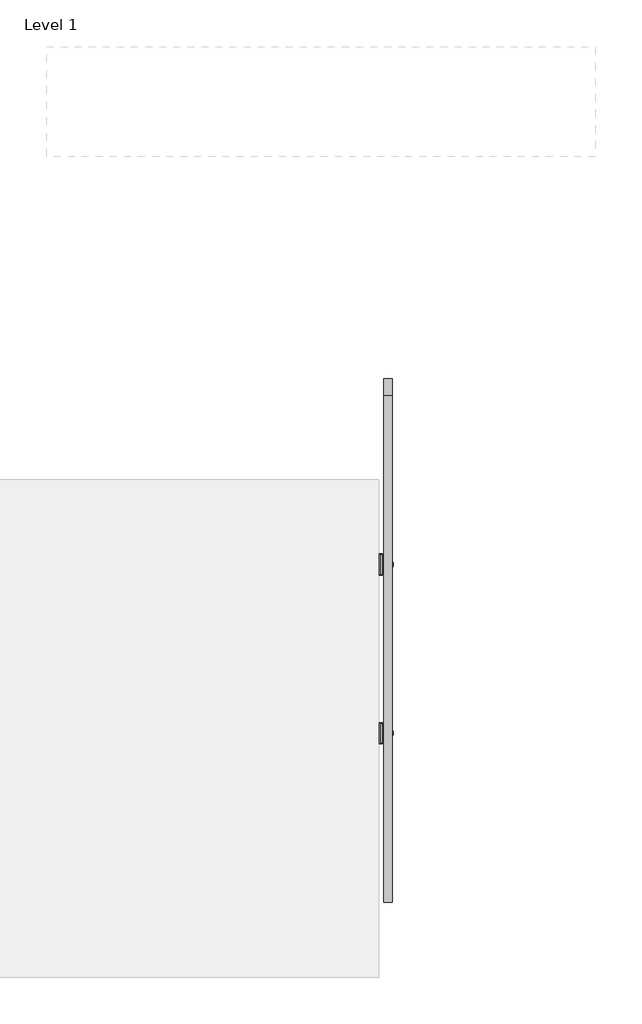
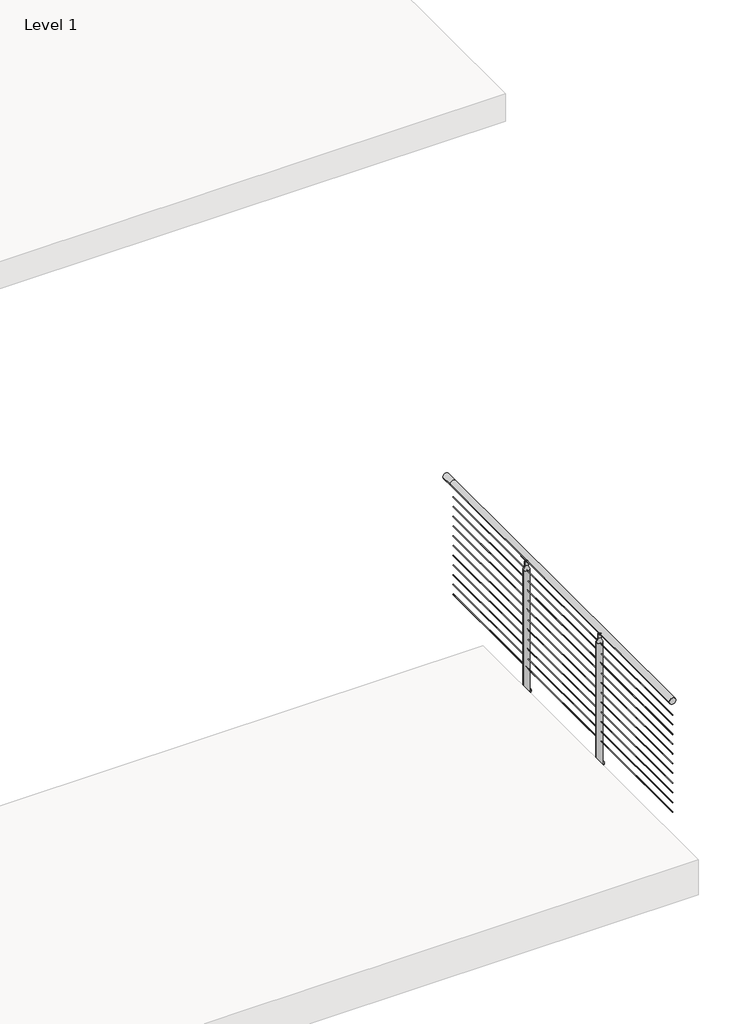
# One storey, part 3 of 21: 1 railing.
"""IFC4 building model written with IfcOpenShell, lengths in millimetres."""

from ifc_helpers import new_model, si_unit, point, frame, frame_2d, origin, place, context, project, spatial, polyline, circle_curve, ellipse_curve, trimmed, segment, composite_curve, outline, extrude, element, save
from ifc_brep_helpers import plane_surface, cylinder_surface, revolved_surface, advanced_brep

model = new_model("IFC4")

# Units and contexts
model_context = context("Model", 3, world=origin())
ifc_project = project(units=[si_unit("LENGTHUNIT", "METRE", prefix="MILLI")], contexts=[model_context])

# Site, building, storey
site = spatial("IfcSite", under=ifc_project)
building = spatial("IfcBuilding", under=site)
storey = spatial("IfcBuildingStorey", under=building, Name="Level 1", Elevation=0.0)

# Railing
placement = place(None, origin())
element("IfcRailing", 1, ObjectType="VIVA-CIRCA-Cable-Fascia Mount-Straight", at=placement, inside=storey, context=model_context, shape_type="SolidModel", body=[
    advanced_brep(
    [(-4853.4752117, -56730.9465075, 1054.1), (-4904.2752117, -56730.9465075, 1054.1), (-4853.4752117, -53682.9465075, 1054.1), (-4904.2752117, -53682.9465075, 1054.1), (-4853.4752117, -53581.3465075, 1054.1), (-4904.2752117, -53581.3465075, 1054.1)],
    [
        (0, 1, circle_curve(frame((-4878.8752117, -56730.9465075, 1054.1), z_axis=(0.0, -1.0, 0.0), x_axis=(-1.0, 0.0, 0.0)), 25.4)),
        (1, 0, circle_curve(frame((-4878.8752117, -56730.9465075, 1054.1), z_axis=(0.0, -1.0, 0.0), x_axis=(-1.0, 0.0, 0.0)), 25.4)),
        (0, 2),
        (2, 3, circle_curve(frame((-4878.8752117, -53682.9465075, 1054.1), z_axis=(0.0, -1.0, 0.0), x_axis=(-1.0, 0.0, 0.0)), 25.4)),
        (3, 1),
        (3, 2, circle_curve(frame((-4878.8752117, -53682.9465075, 1054.1), z_axis=(0.0, -1.0, 0.0), x_axis=(-1.0, 0.0, 0.0)), 25.4)),
        (4, 5, circle_curve(frame((-4878.8752117, -53581.3465075, 1054.1), z_axis=(0.0, 1.0, 0.0), x_axis=(-1.0, 0.0, 0.0)), 25.4)),
        (5, 4, circle_curve(frame((-4878.8752117, -53581.3465075, 1054.1), z_axis=(0.0, 1.0, 0.0), x_axis=(-1.0, 0.0, 0.0)), 25.4)),
        (2, 4),
        (5, 3),
    ],
    [
        plane_surface(frame((-4878.8752117, -56730.9465075, 1079.5), z_axis=(0.0, -1.0, 0.0), x_axis=(0.0, 0.0, 1.0))),
        cylinder_surface(frame((-4878.8752117, -56730.9465075, 1054.1), z_axis=(0.0, -1.0, 0.0), x_axis=(-1.0, 0.0, 0.0)), 25.4),
        plane_surface(frame((-4878.8752117, -53581.3465075, 1079.5), z_axis=(0.0, 1.0, 0.0), x_axis=(0.0, 0.0, 1.0))),
        cylinder_surface(frame((-4878.8752117, -53682.9465075, 1054.1), z_axis=(0.0, -1.0, 0.0), x_axis=(-1.0, 0.0, 0.0)), 25.4),
    ],
    [
        (0, [[1, 2]]),
        (1, [[-1, 3, 4, 5]]),
        (1, [[-2, -5, 6, -3]]),
        (2, [[7, 8]]),
        (3, [[-4, 9, -8, 10]]),
        (3, [[-6, -10, -7, -9]]),
    ],
),
    extrude(outline(composite_curve([segment(trimmed(circle_curve(frame_2d((937.4124, -4878.8752117)), 2.3876), [point((937.4124, -4881.2628117))], [point((937.4124, -4876.4876117))], False, "CARTESIAN"), True, "CONTINUOUS"), segment(trimmed(circle_curve(frame_2d((937.4124, -4878.8752117)), 2.3876), [point((937.4124, -4876.4876117))], [point((937.4124, -4881.2628117))], False, "CARTESIAN"), True, "CONTINUOUS")], self_intersect=False)), frame((0.0, -56730.9465075, 0.0), z_axis=(0.0, 1.0, 0.0), x_axis=(0.0, 0.0, 1.0)), (0.0, 0.0, 1.0), 3048.0),
    extrude(outline(composite_curve([segment(trimmed(circle_curve(frame_2d((854.8624, -4878.8752117)), 2.3876), [point((854.8624, -4881.2628117))], [point((854.8624, -4876.4876117))], False, "CARTESIAN"), True, "CONTINUOUS"), segment(trimmed(circle_curve(frame_2d((854.8624, -4878.8752117)), 2.3876), [point((854.8624, -4876.4876117))], [point((854.8624, -4881.2628117))], False, "CARTESIAN"), True, "CONTINUOUS")], self_intersect=False)), frame((0.0, -56730.9465075, 0.0), z_axis=(0.0, 1.0, 0.0), x_axis=(0.0, 0.0, 1.0)), (0.0, 0.0, 1.0), 3048.0),
    extrude(outline(composite_curve([segment(trimmed(circle_curve(frame_2d((772.3124, -4878.8752117)), 2.3876), [point((772.3124, -4881.2628117))], [point((772.3124, -4876.4876117))], False, "CARTESIAN"), True, "CONTINUOUS"), segment(trimmed(circle_curve(frame_2d((772.3124, -4878.8752117)), 2.3876), [point((772.3124, -4876.4876117))], [point((772.3124, -4881.2628117))], False, "CARTESIAN"), True, "CONTINUOUS")], self_intersect=False)), frame((0.0, -56730.9465075, 0.0), z_axis=(0.0, 1.0, 0.0), x_axis=(0.0, 0.0, 1.0)), (0.0, 0.0, 1.0), 3048.0),
    extrude(outline(composite_curve([segment(trimmed(circle_curve(frame_2d((689.7624, -4878.8752117)), 2.3876), [point((689.7624, -4881.2628117))], [point((689.7624, -4876.4876117))], False, "CARTESIAN"), True, "CONTINUOUS"), segment(trimmed(circle_curve(frame_2d((689.7624, -4878.8752117)), 2.3876), [point((689.7624, -4876.4876117))], [point((689.7624, -4881.2628117))], False, "CARTESIAN"), True, "CONTINUOUS")], self_intersect=False)), frame((0.0, -56730.9465075, 0.0), z_axis=(0.0, 1.0, 0.0), x_axis=(0.0, 0.0, 1.0)), (0.0, 0.0, 1.0), 3048.0),
    extrude(outline(composite_curve([segment(trimmed(circle_curve(frame_2d((607.2124, -4878.8752117)), 2.3876), [point((607.2124, -4881.2628117))], [point((607.2124, -4876.4876117))], False, "CARTESIAN"), True, "CONTINUOUS"), segment(trimmed(circle_curve(frame_2d((607.2124, -4878.8752117)), 2.3876), [point((607.2124, -4876.4876117))], [point((607.2124, -4881.2628117))], False, "CARTESIAN"), True, "CONTINUOUS")], self_intersect=False)), frame((0.0, -56730.9465075, 0.0), z_axis=(0.0, 1.0, 0.0), x_axis=(0.0, 0.0, 1.0)), (0.0, 0.0, 1.0), 3048.0),
    extrude(outline(composite_curve([segment(trimmed(circle_curve(frame_2d((524.6624, -4878.8752117)), 2.3876), [point((524.6624, -4881.2628117))], [point((524.6624, -4876.4876117))], False, "CARTESIAN"), True, "CONTINUOUS"), segment(trimmed(circle_curve(frame_2d((524.6624, -4878.8752117)), 2.3876), [point((524.6624, -4876.4876117))], [point((524.6624, -4881.2628117))], False, "CARTESIAN"), True, "CONTINUOUS")], self_intersect=False)), frame((0.0, -56730.9465075, 0.0), z_axis=(0.0, 1.0, 0.0), x_axis=(0.0, 0.0, 1.0)), (0.0, 0.0, 1.0), 3048.0),
    extrude(outline(composite_curve([segment(trimmed(circle_curve(frame_2d((442.1124, -4878.8752117)), 2.3876), [point((442.1124, -4881.2628117))], [point((442.1124, -4876.4876117))], False, "CARTESIAN"), True, "CONTINUOUS"), segment(trimmed(circle_curve(frame_2d((442.1124, -4878.8752117)), 2.3876), [point((442.1124, -4876.4876117))], [point((442.1124, -4881.2628117))], False, "CARTESIAN"), True, "CONTINUOUS")], self_intersect=False)), frame((0.0, -56730.9465075, 0.0), z_axis=(0.0, 1.0, 0.0), x_axis=(0.0, 0.0, 1.0)), (0.0, 0.0, 1.0), 3048.0),
    extrude(outline(composite_curve([segment(trimmed(circle_curve(frame_2d((359.5624, -4878.8752117)), 2.3876), [point((359.5624, -4881.2628117))], [point((359.5624, -4876.4876117))], False, "CARTESIAN"), True, "CONTINUOUS"), segment(trimmed(circle_curve(frame_2d((359.5624, -4878.8752117)), 2.3876), [point((359.5624, -4876.4876117))], [point((359.5624, -4881.2628117))], False, "CARTESIAN"), True, "CONTINUOUS")], self_intersect=False)), frame((0.0, -56730.9465075, 0.0), z_axis=(0.0, 1.0, 0.0), x_axis=(0.0, 0.0, 1.0)), (0.0, 0.0, 1.0), 3048.0),
    extrude(outline(composite_curve([segment(trimmed(circle_curve(frame_2d((277.0124, -4878.8752117)), 2.3876), [point((277.0124, -4881.2628117))], [point((277.0124, -4876.4876117))], False, "CARTESIAN"), True, "CONTINUOUS"), segment(trimmed(circle_curve(frame_2d((277.0124, -4878.8752117)), 2.3876), [point((277.0124, -4876.4876117))], [point((277.0124, -4881.2628117))], False, "CARTESIAN"), True, "CONTINUOUS")], self_intersect=False)), frame((0.0, -56730.9465075, 0.0), z_axis=(0.0, 1.0, 0.0), x_axis=(0.0, 0.0, 1.0)), (0.0, 0.0, 1.0), 3048.0),
    extrude(outline(composite_curve([segment(trimmed(circle_curve(frame_2d((194.4624, -4878.8752117)), 2.3876), [point((194.4624, -4881.2628117))], [point((194.4624, -4876.4876117))], False, "CARTESIAN"), True, "CONTINUOUS"), segment(trimmed(circle_curve(frame_2d((194.4624, -4878.8752117)), 2.3876), [point((194.4624, -4876.4876117))], [point((194.4624, -4881.2628117))], False, "CARTESIAN"), True, "CONTINUOUS")], self_intersect=False)), frame((0.0, -56730.9465075, 0.0), z_axis=(0.0, 1.0, 0.0), x_axis=(0.0, 0.0, 1.0)), (0.0, 0.0, 1.0), 3048.0),
    extrude(outline(composite_curve([segment(trimmed(circle_curve(frame_2d((111.9124, -4878.8752117)), 2.3876), [point((111.9124, -4881.2628117))], [point((111.9124, -4876.4876117))], False, "CARTESIAN"), True, "CONTINUOUS"), segment(trimmed(circle_curve(frame_2d((111.9124, -4878.8752117)), 2.3876), [point((111.9124, -4876.4876117))], [point((111.9124, -4881.2628117))], False, "CARTESIAN"), True, "CONTINUOUS")], self_intersect=False)), frame((0.0, -56730.9465075, 0.0), z_axis=(0.0, 1.0, 0.0), x_axis=(0.0, 0.0, 1.0)), (0.0, 0.0, 1.0), 3048.0),
    extrude(outline(composite_curve([segment(trimmed(circle_curve(frame_2d((1055.4254922, -4878.9719401)), 25.4345159), [point((1033.3106679, -4866.4081372))], [point((1033.2157471, -4891.3671739))], True, "CARTESIAN"), True, "CONTINUOUS"), segment(trimmed(circle_curve(frame_2d((1030.7132623, -4892.611827)), 2.7949225), [point((1033.2157471, -4891.3671739))], [point((1028.3406769, -4894.089132))], False, "CARTESIAN"), True, "CONTINUOUS"), segment(trimmed(circle_curve(frame_2d((1056.1881188, -4878.838477)), 31.75), [point((1028.3406769, -4894.089132))], [point((1028.9214354, -4862.5722398))], False, "CARTESIAN"), True, "CONTINUOUS"), segment(trimmed(circle_curve(frame_2d((1030.7923545, -4864.8605795)), 2.9558141), [point((1028.9214354, -4862.5722398))], [point((1033.3106679, -4866.4081372))], False, "CARTESIAN"), True, "CONTINUOUS")], self_intersect=False)), frame((0.0, -54743.7870325, 0.0), z_axis=(0.0, 1.0, 0.0), x_axis=(0.0, 0.0, 1.0)), (0.0, 0.0, 1.0), 90.4748),
    extrude(outline(composite_curve([segment(trimmed(circle_curve(frame_2d((-54671.4817176, 1010.282776)), 14.3679149), [point((-54671.4817176, 1024.6506908))], [point((-54685.8496325, 1010.282776))], True, "CARTESIAN"), True, "CONTINUOUS"), segment(trimmed(circle_curve(frame_2d((-54698.5496325, 1010.282776)), 12.7), [point((-54685.8496325, 1010.282776))], [point((-54711.2496325, 1010.282776))], False, "CARTESIAN"), True, "CONTINUOUS"), segment(trimmed(circle_curve(frame_2d((-54725.6175473, 1010.282776)), 14.3679149), [point((-54711.2496325, 1010.282776))], [point((-54725.6175473, 1024.6506908))], True, "CARTESIAN"), True, "CONTINUOUS"), segment(polyline([(-54725.6175473, 1024.6506908), (-54671.4817176, 1024.6506908)]), True, "CONTINUOUS")], self_intersect=False)), frame((-4881.4152117, 0.0, 0.0), z_axis=(1.0, 0.0, 0.0), x_axis=(0.0, 1.0, 0.0)), (0.0, 0.0, 1.0), 5.08),
    extrude(outline(polyline([(-4933.3882474, -54635.0496325), (-4923.4060474, -54635.0496325), (-4923.4060474, -54762.0496325), (-4933.3882474, -54762.0496325), (-4933.3882474, -54635.0496325)])), frame((0.0, 0.0, -209.55), z_axis=(0.0, 0.0, 1.0), x_axis=(1.0, 0.0, 0.0)), (0.0, 0.0, 1.0), 152.4),
    extrude(outline(composite_curve([segment(polyline([(-4923.4060474, -54730.2996325), (-4923.4060474, -54666.7996325), (-4869.6790302, -54666.7996325)]), True, "CONTINUOUS"), segment(trimmed(circle_curve(frame_2d((-4878.8752117, -54698.5496325)), 33.0549883), [point((-4869.6790302, -54666.7996325))], [point((-4869.6790302, -54730.2996325))], False, "CARTESIAN"), True, "CONTINUOUS"), segment(polyline([(-4869.6790302, -54730.2996325), (-4923.4060474, -54730.2996325)]), True, "CONTINUOUS")], self_intersect=False)), frame((0.0, 0.0, -182.5625), z_axis=(0.0, 0.0, 1.0), x_axis=(1.0, 0.0, 0.0)), (0.0, 0.0, 1.0), 9.525),
    extrude(outline(composite_curve([segment(polyline([(-4923.4060474, -54730.2996325), (-4923.4060474, -54666.7996325), (-4869.6790302, -54666.7996325)]), True, "CONTINUOUS"), segment(trimmed(circle_curve(frame_2d((-4878.8752117, -54698.5496325)), 33.0549883), [point((-4869.6790302, -54666.7996325))], [point((-4869.6790302, -54730.2996325))], False, "CARTESIAN"), True, "CONTINUOUS"), segment(polyline([(-4869.6790302, -54730.2996325), (-4923.4060474, -54730.2996325)]), True, "CONTINUOUS")], self_intersect=False)), frame((0.0, 0.0, -93.6625), z_axis=(0.0, 0.0, 1.0), x_axis=(1.0, 0.0, 0.0)), (0.0, 0.0, 1.0), 9.525),
    extrude(outline(composite_curve([segment(trimmed(circle_curve(frame_2d((-54637.5896325, -59.69)), 2.54), [point((-54637.5896325, -57.15))], [point((-54635.0496325, -59.69))], False, "CARTESIAN"), True, "CONTINUOUS"), segment(polyline([(-54635.0496325, -59.69), (-54635.0496325, -207.01)]), True, "CONTINUOUS"), segment(trimmed(circle_curve(frame_2d((-54637.5896325, -207.01)), 2.54), [point((-54635.0496325, -207.01))], [point((-54637.5896325, -209.55))], False, "CARTESIAN"), True, "CONTINUOUS"), segment(polyline([(-54637.5896325, -209.55), (-54759.5096325, -209.55)]), True, "CONTINUOUS"), segment(trimmed(circle_curve(frame_2d((-54759.5096325, -207.01)), 2.54), [point((-54759.5096325, -209.55))], [point((-54762.0496325, -207.01))], False, "CARTESIAN"), True, "CONTINUOUS"), segment(polyline([(-54762.0496325, -207.01), (-54762.0496325, -59.69)]), True, "CONTINUOUS"), segment(trimmed(circle_curve(frame_2d((-54759.5096325, -59.69)), 2.54), [point((-54762.0496325, -59.69))], [point((-54759.5096325, -57.15))], False, "CARTESIAN"), True, "CONTINUOUS"), segment(polyline([(-54759.5096325, -57.15), (-54637.5896325, -57.15)]), True, "CONTINUOUS")], self_intersect=False), holes=[composite_curve([segment(trimmed(circle_curve(frame_2d((-54742.9996325, -76.2)), 5.55625), [point((-54737.4433825, -76.2))], [point((-54748.5558825, -76.2))], True, "CARTESIAN"), True, "CONTINUOUS"), segment(trimmed(circle_curve(frame_2d((-54742.9996325, -76.2)), 5.55625), [point((-54748.5558825, -76.2))], [point((-54737.4433825, -76.2))], True, "CARTESIAN"), True, "CONTINUOUS")], self_intersect=False), composite_curve([segment(trimmed(circle_curve(frame_2d((-54654.0996325, -76.2)), 5.55625), [point((-54648.5433825, -76.2))], [point((-54659.6558825, -76.2))], True, "CARTESIAN"), True, "CONTINUOUS"), segment(trimmed(circle_curve(frame_2d((-54654.0996325, -76.2)), 5.55625), [point((-54659.6558825, -76.2))], [point((-54648.5433825, -76.2))], True, "CARTESIAN"), True, "CONTINUOUS")], self_intersect=False), composite_curve([segment(trimmed(circle_curve(frame_2d((-54654.0996325, -190.5)), 5.55625), [point((-54648.5433825, -190.5))], [point((-54659.6558825, -190.5))], True, "CARTESIAN"), True, "CONTINUOUS"), segment(trimmed(circle_curve(frame_2d((-54654.0996325, -190.5)), 5.55625), [point((-54659.6558825, -190.5))], [point((-54648.5433825, -190.5))], True, "CARTESIAN"), True, "CONTINUOUS")], self_intersect=False), composite_curve([segment(trimmed(circle_curve(frame_2d((-54742.9996325, -190.5)), 5.55625), [point((-54737.4433825, -190.5))], [point((-54748.5558825, -190.5))], True, "CARTESIAN"), True, "CONTINUOUS"), segment(trimmed(circle_curve(frame_2d((-54742.9996325, -190.5)), 5.55625), [point((-54748.5558825, -190.5))], [point((-54737.4433825, -190.5))], True, "CARTESIAN"), True, "CONTINUOUS")], self_intersect=False)]), frame((-4923.4060474, 0.0, 0.0), z_axis=(1.0, 0.0, 0.0), x_axis=(0.0, 1.0, 0.0)), (0.0, 0.0, 1.0), 9.9822),
    advanced_brep(
    [(-4853.4758139, -54698.5496325, 941.1347854), (-4904.2746095, -54698.5496325, 941.1347854), (-4904.2746095, -54698.5496325, -173.0502), (-4853.4758139, -54698.5496325, -173.0502), (-4866.1372432, -54698.5496325, 979.3486202), (-4891.6131803, -54698.5496325, 979.3486202), (-4866.1372432, -54698.5496325, 1008.5779599), (-4891.6131803, -54698.5496325, 1008.5779599), (-4878.8752117, -54698.5496325, 1015.238668), (-4878.8752117, -54698.5496325, -173.0502)],
    [
        (0, 1, circle_curve(frame((-4878.8752117, -54698.5496325, 941.1347854), z_axis=(0.0, 0.0, -1.0), x_axis=(-1.0, 0.0, 0.0)), 25.3993978)),
        (1, 2),
        (2, 3, circle_curve(frame((-4878.8752117, -54698.5496325, -173.0502), z_axis=(0.0, 0.0, 1.0), x_axis=(-1.0, 0.0, 0.0)), 25.3993978)),
        (3, 0),
        (1, 0, circle_curve(frame((-4878.8752117, -54698.5496325, 941.1347854), z_axis=(0.0, 0.0, -1.0), x_axis=(-1.0, 0.0, 0.0)), 25.3993978)),
        (3, 2, circle_curve(frame((-4878.8752117, -54698.5496325, -173.0502), z_axis=(0.0, 0.0, 1.0), x_axis=(-1.0, 0.0, 0.0)), 25.3993978)),
        (4, 5, circle_curve(frame((-4878.8752117, -54698.5496325, 979.3486202), z_axis=(0.0, 0.0, -1.0), x_axis=(-1.0, 0.0, 0.0)), 12.7379685)),
        (5, 1, circle_curve(frame((-4955.6110486, -54698.5496325, 979.3486202), z_axis=(0.0, 1.0, 0.0), x_axis=(-1.0, 0.0, 0.0)), 63.9978683)),
        (0, 4, circle_curve(frame((-4802.1393749, -54698.5496325, 979.3486202), z_axis=(0.0, 1.0, 0.0), x_axis=(1.0, 0.0, 0.0)), 63.9978683)),
        (5, 4, circle_curve(frame((-4878.8752117, -54698.5496325, 979.3486202), z_axis=(0.0, 0.0, -1.0), x_axis=(-1.0, 0.0, 0.0)), 12.7379685)),
        (6, 7, circle_curve(frame((-4878.8752117, -54698.5496325, 1008.5779599), z_axis=(0.0, 0.0, -1.0), x_axis=(-1.0, 0.0, 0.0)), 12.7379685)),
        (7, 5),
        (4, 6),
        (7, 6, circle_curve(frame((-4878.8752117, -54698.5496325, 1008.5779599), z_axis=(0.0, 0.0, -1.0), x_axis=(-1.0, 0.0, 0.0)), 12.7379685)),
        (8, 7, circle_curve(frame((-4878.8752117, -54698.5496325, 999.7282394), z_axis=(0.0, -1.0, 0.0), x_axis=(-1.0, 0.0, 0.0)), 15.5104286)),
        (6, 8, circle_curve(frame((-4878.8752117, -54698.5496325, 999.7282394), z_axis=(0.0, -1.0, 0.0), x_axis=(1.0, 0.0, 0.0)), 15.5104286)),
        (2, 9),
        (9, 3),
    ],
    [
        cylinder_surface(frame((-4878.8752117, -54698.5496325, 1104.9), z_axis=(0.0, 0.0, 1.0), x_axis=(-1.0, 0.0, 0.0)), 25.3993978),
        revolved_surface(trimmed(ellipse_curve(frame((-4955.6110486, -54698.5496325, 979.3486202), z_axis=(0.0, -1.0, 0.0), x_axis=(-1.0, 0.0, 0.0)), 63.9978683, 63.9978683), [point((-4904.2746095, -54698.5496325, 941.1347854))], [point((-4891.6131803, -54698.5496325, 979.3486202))], True, "CARTESIAN"), (-4878.8752117, -54698.5496325, 1104.9), (0.0, 0.0, 1.0)),
        cylinder_surface(frame((-4878.8752117, -54698.5496325, 1104.9), z_axis=(0.0, 0.0, 1.0), x_axis=(-1.0, 0.0, 0.0)), 12.7379685),
        revolved_surface(trimmed(ellipse_curve(frame((-4878.8752117, -54698.5496325, 999.7282394), z_axis=(0.0, 1.0, 0.0), x_axis=(-1.0, 0.0, 0.0)), 15.5104286, 15.5104286), [point((-4891.6131803, -54698.5496325, 1008.5779599))], [point((-4878.8752117, -54698.5496325, 1015.238668))], True, "CARTESIAN"), (-4878.8752117, -54698.5496325, 1104.9), (0.0, 0.0, 1.0)),
        plane_surface(frame((-4878.8752117, -54698.5496325, -173.0502), z_axis=(0.0, 0.0, -1.0), x_axis=(-1.0, 0.0, 0.0))),
    ],
    [
        (0, [[1, 2, 3, 4]]),
        (0, [[5, -4, 6, -2]]),
        (1, [[7, 8, -1, 9]]),
        (1, [[10, -9, -5, -8]]),
        (2, [[11, 12, -7, 13]]),
        (2, [[14, -13, -10, -12]]),
        (3, [[15, -11, 16]]),
        (3, [[-16, -14, -15]]),
        (4, [[-3, 17, 18]]),
        (4, [[-6, -18, -17]]),
    ],
),
    extrude(outline(composite_curve([segment(trimmed(circle_curve(frame_2d((1055.4254922, -4878.9719401)), 25.4345159), [point((1033.3106679, -4866.4081372))], [point((1033.2157471, -4891.3671739))], True, "CARTESIAN"), True, "CONTINUOUS"), segment(trimmed(circle_curve(frame_2d((1030.7132623, -4892.611827)), 2.7949225), [point((1033.2157471, -4891.3671739))], [point((1028.3406769, -4894.089132))], False, "CARTESIAN"), True, "CONTINUOUS"), segment(trimmed(circle_curve(frame_2d((1056.1881188, -4878.838477)), 31.75), [point((1028.3406769, -4894.089132))], [point((1028.9214354, -4862.5722398))], False, "CARTESIAN"), True, "CONTINUOUS"), segment(trimmed(circle_curve(frame_2d((1030.7923545, -4864.8605795)), 2.9558141), [point((1028.9214354, -4862.5722398))], [point((1033.3106679, -4866.4081372))], False, "CARTESIAN"), True, "CONTINUOUS")], self_intersect=False)), frame((0.0, -55759.7870325, 0.0), z_axis=(0.0, 1.0, 0.0), x_axis=(0.0, 0.0, 1.0)), (0.0, 0.0, 1.0), 90.4748),
    extrude(outline(composite_curve([segment(trimmed(circle_curve(frame_2d((-55687.4817176, 1010.282776)), 14.3679149), [point((-55687.4817176, 1024.6506908))], [point((-55701.8496325, 1010.282776))], True, "CARTESIAN"), True, "CONTINUOUS"), segment(trimmed(circle_curve(frame_2d((-55714.5496325, 1010.282776)), 12.7), [point((-55701.8496325, 1010.282776))], [point((-55727.2496325, 1010.282776))], False, "CARTESIAN"), True, "CONTINUOUS"), segment(trimmed(circle_curve(frame_2d((-55741.6175473, 1010.282776)), 14.3679149), [point((-55727.2496325, 1010.282776))], [point((-55741.6175473, 1024.6506908))], True, "CARTESIAN"), True, "CONTINUOUS"), segment(polyline([(-55741.6175473, 1024.6506908), (-55687.4817176, 1024.6506908)]), True, "CONTINUOUS")], self_intersect=False)), frame((-4881.4152117, 0.0, 0.0), z_axis=(1.0, 0.0, 0.0), x_axis=(0.0, 1.0, 0.0)), (0.0, 0.0, 1.0), 5.08),
    extrude(outline(polyline([(-4933.3882474, -55651.0496325), (-4923.4060474, -55651.0496325), (-4923.4060474, -55778.0496325), (-4933.3882474, -55778.0496325), (-4933.3882474, -55651.0496325)])), frame((0.0, 0.0, -209.55), z_axis=(0.0, 0.0, 1.0), x_axis=(1.0, 0.0, 0.0)), (0.0, 0.0, 1.0), 152.4),
    extrude(outline(composite_curve([segment(polyline([(-4923.4060474, -55746.2996325), (-4923.4060474, -55682.7996325), (-4869.6790302, -55682.7996325)]), True, "CONTINUOUS"), segment(trimmed(circle_curve(frame_2d((-4878.8752117, -55714.5496325)), 33.0549883), [point((-4869.6790302, -55682.7996325))], [point((-4869.6790302, -55746.2996325))], False, "CARTESIAN"), True, "CONTINUOUS"), segment(polyline([(-4869.6790302, -55746.2996325), (-4923.4060474, -55746.2996325)]), True, "CONTINUOUS")], self_intersect=False)), frame((0.0, 0.0, -182.5625), z_axis=(0.0, 0.0, 1.0), x_axis=(1.0, 0.0, 0.0)), (0.0, 0.0, 1.0), 9.525),
    extrude(outline(composite_curve([segment(polyline([(-4923.4060474, -55746.2996325), (-4923.4060474, -55682.7996325), (-4869.6790302, -55682.7996325)]), True, "CONTINUOUS"), segment(trimmed(circle_curve(frame_2d((-4878.8752117, -55714.5496325)), 33.0549883), [point((-4869.6790302, -55682.7996325))], [point((-4869.6790302, -55746.2996325))], False, "CARTESIAN"), True, "CONTINUOUS"), segment(polyline([(-4869.6790302, -55746.2996325), (-4923.4060474, -55746.2996325)]), True, "CONTINUOUS")], self_intersect=False)), frame((0.0, 0.0, -93.6625), z_axis=(0.0, 0.0, 1.0), x_axis=(1.0, 0.0, 0.0)), (0.0, 0.0, 1.0), 9.525),
    extrude(outline(composite_curve([segment(trimmed(circle_curve(frame_2d((-55653.5896325, -59.69)), 2.54), [point((-55653.5896325, -57.15))], [point((-55651.0496325, -59.69))], False, "CARTESIAN"), True, "CONTINUOUS"), segment(polyline([(-55651.0496325, -59.69), (-55651.0496325, -207.01)]), True, "CONTINUOUS"), segment(trimmed(circle_curve(frame_2d((-55653.5896325, -207.01)), 2.54), [point((-55651.0496325, -207.01))], [point((-55653.5896325, -209.55))], False, "CARTESIAN"), True, "CONTINUOUS"), segment(polyline([(-55653.5896325, -209.55), (-55775.5096325, -209.55)]), True, "CONTINUOUS"), segment(trimmed(circle_curve(frame_2d((-55775.5096325, -207.01)), 2.54), [point((-55775.5096325, -209.55))], [point((-55778.0496325, -207.01))], False, "CARTESIAN"), True, "CONTINUOUS"), segment(polyline([(-55778.0496325, -207.01), (-55778.0496325, -59.69)]), True, "CONTINUOUS"), segment(trimmed(circle_curve(frame_2d((-55775.5096325, -59.69)), 2.54), [point((-55778.0496325, -59.69))], [point((-55775.5096325, -57.15))], False, "CARTESIAN"), True, "CONTINUOUS"), segment(polyline([(-55775.5096325, -57.15), (-55653.5896325, -57.15)]), True, "CONTINUOUS")], self_intersect=False), holes=[composite_curve([segment(trimmed(circle_curve(frame_2d((-55758.9996325, -76.2)), 5.55625), [point((-55753.4433825, -76.2))], [point((-55764.5558825, -76.2))], True, "CARTESIAN"), True, "CONTINUOUS"), segment(trimmed(circle_curve(frame_2d((-55758.9996325, -76.2)), 5.55625), [point((-55764.5558825, -76.2))], [point((-55753.4433825, -76.2))], True, "CARTESIAN"), True, "CONTINUOUS")], self_intersect=False), composite_curve([segment(trimmed(circle_curve(frame_2d((-55670.0996325, -76.2)), 5.55625), [point((-55664.5433825, -76.2))], [point((-55675.6558825, -76.2))], True, "CARTESIAN"), True, "CONTINUOUS"), segment(trimmed(circle_curve(frame_2d((-55670.0996325, -76.2)), 5.55625), [point((-55675.6558825, -76.2))], [point((-55664.5433825, -76.2))], True, "CARTESIAN"), True, "CONTINUOUS")], self_intersect=False), composite_curve([segment(trimmed(circle_curve(frame_2d((-55670.0996325, -190.5)), 5.55625), [point((-55664.5433825, -190.5))], [point((-55675.6558825, -190.5))], True, "CARTESIAN"), True, "CONTINUOUS"), segment(trimmed(circle_curve(frame_2d((-55670.0996325, -190.5)), 5.55625), [point((-55675.6558825, -190.5))], [point((-55664.5433825, -190.5))], True, "CARTESIAN"), True, "CONTINUOUS")], self_intersect=False), composite_curve([segment(trimmed(circle_curve(frame_2d((-55758.9996325, -190.5)), 5.55625), [point((-55753.4433825, -190.5))], [point((-55764.5558825, -190.5))], True, "CARTESIAN"), True, "CONTINUOUS"), segment(trimmed(circle_curve(frame_2d((-55758.9996325, -190.5)), 5.55625), [point((-55764.5558825, -190.5))], [point((-55753.4433825, -190.5))], True, "CARTESIAN"), True, "CONTINUOUS")], self_intersect=False)]), frame((-4923.4060474, 0.0, 0.0), z_axis=(1.0, 0.0, 0.0), x_axis=(0.0, 1.0, 0.0)), (0.0, 0.0, 1.0), 9.9822),
    advanced_brep(
    [(-4853.4758139, -55714.5496325, 941.1347854), (-4904.2746095, -55714.5496325, 941.1347854), (-4904.2746095, -55714.5496325, -173.0502), (-4853.4758139, -55714.5496325, -173.0502), (-4866.1372432, -55714.5496325, 979.3486202), (-4891.6131803, -55714.5496325, 979.3486202), (-4866.1372432, -55714.5496325, 1008.5779599), (-4891.6131803, -55714.5496325, 1008.5779599), (-4878.8752117, -55714.5496325, 1015.238668), (-4878.8752117, -55714.5496325, -173.0502)],
    [
        (0, 1, circle_curve(frame((-4878.8752117, -55714.5496325, 941.1347854), z_axis=(0.0, 0.0, -1.0), x_axis=(-1.0, 0.0, 0.0)), 25.3993978)),
        (1, 2),
        (2, 3, circle_curve(frame((-4878.8752117, -55714.5496325, -173.0502), z_axis=(0.0, 0.0, 1.0), x_axis=(-1.0, 0.0, 0.0)), 25.3993978)),
        (3, 0),
        (1, 0, circle_curve(frame((-4878.8752117, -55714.5496325, 941.1347854), z_axis=(0.0, 0.0, -1.0), x_axis=(-1.0, 0.0, 0.0)), 25.3993978)),
        (3, 2, circle_curve(frame((-4878.8752117, -55714.5496325, -173.0502), z_axis=(0.0, 0.0, 1.0), x_axis=(-1.0, 0.0, 0.0)), 25.3993978)),
        (4, 5, circle_curve(frame((-4878.8752117, -55714.5496325, 979.3486202), z_axis=(0.0, 0.0, -1.0), x_axis=(-1.0, 0.0, 0.0)), 12.7379685)),
        (5, 1, circle_curve(frame((-4955.6110486, -55714.5496325, 979.3486202), z_axis=(0.0, 1.0, 0.0), x_axis=(-1.0, 0.0, 0.0)), 63.9978683)),
        (0, 4, circle_curve(frame((-4802.1393749, -55714.5496325, 979.3486202), z_axis=(0.0, 1.0, 0.0), x_axis=(1.0, 0.0, 0.0)), 63.9978683)),
        (5, 4, circle_curve(frame((-4878.8752117, -55714.5496325, 979.3486202), z_axis=(0.0, 0.0, -1.0), x_axis=(-1.0, 0.0, 0.0)), 12.7379685)),
        (6, 7, circle_curve(frame((-4878.8752117, -55714.5496325, 1008.5779599), z_axis=(0.0, 0.0, -1.0), x_axis=(-1.0, 0.0, 0.0)), 12.7379685)),
        (7, 5),
        (4, 6),
        (7, 6, circle_curve(frame((-4878.8752117, -55714.5496325, 1008.5779599), z_axis=(0.0, 0.0, -1.0), x_axis=(-1.0, 0.0, 0.0)), 12.7379685)),
        (8, 7, circle_curve(frame((-4878.8752117, -55714.5496325, 999.7282394), z_axis=(0.0, -1.0, 0.0), x_axis=(-1.0, 0.0, 0.0)), 15.5104286)),
        (6, 8, circle_curve(frame((-4878.8752117, -55714.5496325, 999.7282394), z_axis=(0.0, -1.0, 0.0), x_axis=(1.0, 0.0, 0.0)), 15.5104286)),
        (2, 9),
        (9, 3),
    ],
    [
        cylinder_surface(frame((-4878.8752117, -55714.5496325, 1104.9), z_axis=(0.0, 0.0, 1.0), x_axis=(-1.0, 0.0, 0.0)), 25.3993978),
        revolved_surface(trimmed(ellipse_curve(frame((-4955.6110486, -55714.5496325, 979.3486202), z_axis=(0.0, -1.0, 0.0), x_axis=(-1.0, 0.0, 0.0)), 63.9978683, 63.9978683), [point((-4904.2746095, -55714.5496325, 941.1347854))], [point((-4891.6131803, -55714.5496325, 979.3486202))], True, "CARTESIAN"), (-4878.8752117, -55714.5496325, 1104.9), (0.0, 0.0, 1.0)),
        cylinder_surface(frame((-4878.8752117, -55714.5496325, 1104.9), z_axis=(0.0, 0.0, 1.0), x_axis=(-1.0, 0.0, 0.0)), 12.7379685),
        revolved_surface(trimmed(ellipse_curve(frame((-4878.8752117, -55714.5496325, 999.7282394), z_axis=(0.0, 1.0, 0.0), x_axis=(-1.0, 0.0, 0.0)), 15.5104286, 15.5104286), [point((-4891.6131803, -55714.5496325, 1008.5779599))], [point((-4878.8752117, -55714.5496325, 1015.238668))], True, "CARTESIAN"), (-4878.8752117, -55714.5496325, 1104.9), (0.0, 0.0, 1.0)),
        plane_surface(frame((-4878.8752117, -55714.5496325, -173.0502), z_axis=(0.0, 0.0, -1.0), x_axis=(-1.0, 0.0, 0.0))),
    ],
    [
        (0, [[1, 2, 3, 4]]),
        (0, [[5, -4, 6, -2]]),
        (1, [[7, 8, -1, 9]]),
        (1, [[10, -9, -5, -8]]),
        (2, [[11, 12, -7, 13]]),
        (2, [[14, -13, -10, -12]]),
        (3, [[15, -11, 16]]),
        (3, [[-16, -14, -15]]),
        (4, [[-3, 17, 18]]),
        (4, [[-6, -18, -17]]),
    ],
),
])

save(model, "model.ifc")
